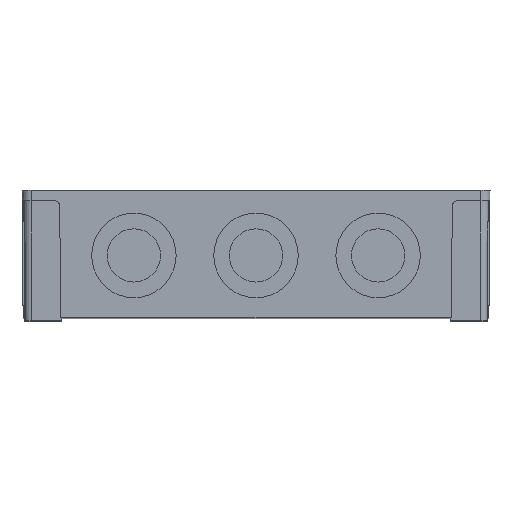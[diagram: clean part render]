
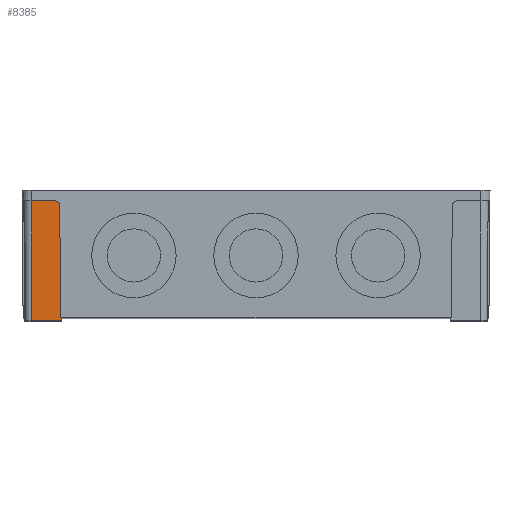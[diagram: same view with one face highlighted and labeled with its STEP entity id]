
A CAD part, top view. The second image highlights one B-rep face of the part: STEP entity #8385.
In plain terms, the highlighted planar face has unit normal (0, -0.009, 1).
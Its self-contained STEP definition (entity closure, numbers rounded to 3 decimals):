
#1549 = CARTESIAN_POINT ( 'NONE',  ( -75.157, -49., 126.457 ) ) ;
#1628 = DIRECTION ( 'NONE',  ( -1., 0., 0. ) ) ;
#1629 = VECTOR ( 'NONE', #1628, 1000. ) ;
#1630 = CARTESIAN_POINT ( 'NONE',  ( -86.55, -49., 126.457 ) ) ;
#1631 = LINE ( 'NONE', #1630, #1629 ) ;
#1692 = CARTESIAN_POINT ( 'NONE',  ( -74.957, -49., 126.457 ) ) ;
#2254 = DIRECTION ( 'NONE',  ( -1., 0., 0. ) ) ;
#2255 = VECTOR ( 'NONE', #2254, 1000. ) ;
#2256 = CARTESIAN_POINT ( 'NONE',  ( -86.55, -50., 126.449 ) ) ;
#2257 = LINE ( 'NONE', #2256, #2255 ) ;
#2283 = CARTESIAN_POINT ( 'NONE',  ( -86.55, -50., 126.449 ) ) ;
#2295 = CARTESIAN_POINT ( 'NONE',  ( -86.55, -4., 126.85 ) ) ;
#2344 = DIRECTION ( 'NONE',  ( 0.009, 1., 0.009 ) ) ;
#2345 = VECTOR ( 'NONE', #2344, 1000. ) ;
#2346 = CARTESIAN_POINT ( 'NONE',  ( -74.958, -49.101, 126.456 ) ) ;
#2347 = LINE ( 'NONE', #2346, #2345 ) ;
#2353 = CARTESIAN_POINT ( 'NONE',  ( -74.966, -50., 126.449 ) ) ;
#2358 = CARTESIAN_POINT ( 'NONE',  ( -76.369, -4., 126.85 ) ) ;
#2359 = CARTESIAN_POINT ( 'NONE',  ( -75.543, -4.819, 126.843 ) ) ;
#2360 = CARTESIAN_POINT ( 'NONE',  ( -75.533, -5.983, 126.833 ) ) ;
#2361 =( BOUNDED_CURVE ( )  B_SPLINE_CURVE ( 3, ( #2360, #2359, #2358, #2414 ),
 .UNSPECIFIED., .F., .T. ) 
 B_SPLINE_CURVE_WITH_KNOTS ( ( 4, 4 ),
 ( 1.58, 3.142 ),
 .UNSPECIFIED. ) 
 CURVE ( )  GEOMETRIC_REPRESENTATION_ITEM ( )  RATIONAL_B_SPLINE_CURVE ( ( 1., 0.807, 0.807, 1. ) ) 
 REPRESENTATION_ITEM ( '' )  );
#2362 = LINE ( 'NONE', #2413, #2412 ) ;
#2363 = CARTESIAN_POINT ( 'NONE',  ( -77.533, -4., 126.85 ) ) ;
#2364 = CARTESIAN_POINT ( 'NONE',  ( -75.533, -5.983, 126.833 ) ) ;
#2365 = DIRECTION ( 'NONE',  ( -0.009, 1., 0.009 ) ) ;
#2366 = VECTOR ( 'NONE', #2365, 1000. ) ;
#2367 = CARTESIAN_POINT ( 'NONE',  ( -75.551, -3.904, 126.851 ) ) ;
#2368 = LINE ( 'NONE', #2367, #2366 ) ;
#2369 = DIRECTION ( 'NONE',  ( 0., 1., 0.009 ) ) ;
#2370 = DIRECTION ( 'NONE',  ( 0., 0.009, -1. ) ) ;
#2371 = CARTESIAN_POINT ( 'NONE',  ( -75.55, -4., 126.85 ) ) ;
#2372 = AXIS2_PLACEMENT_3D ( 'NONE', #2371, #2370, #2369 ) ;
#2373 = PLANE ( 'NONE',  #2372 ) ;
#2374 = FACE_OUTER_BOUND ( 'NONE', #8386, .T. ) ;
#2375 = DIRECTION ( 'NONE',  ( 0., 1., 0.009 ) ) ;
#2376 = VECTOR ( 'NONE', #2375, 1000. ) ;
#2377 = CARTESIAN_POINT ( 'NONE',  ( -86.55, -4., 126.85 ) ) ;
#2378 = LINE ( 'NONE', #2377, #2376 ) ;
#2411 = DIRECTION ( 'NONE',  ( -1., 0., 0. ) ) ;
#2412 = VECTOR ( 'NONE', #2411, 1000. ) ;
#2413 = CARTESIAN_POINT ( 'NONE',  ( -75.55, -4., 126.85 ) ) ;
#2414 = CARTESIAN_POINT ( 'NONE',  ( -77.533, -4., 126.85 ) ) ;
#7894 = VERTEX_POINT ( 'NONE', #1549 ) ;
#7962 = EDGE_CURVE ( 'NONE', #7963, #7894, #1631, .T. ) ;
#7963 = VERTEX_POINT ( 'NONE', #1692 ) ;
#8314 = ORIENTED_EDGE ( 'NONE', *, *, #8315, .F. ) ;
#8315 = EDGE_CURVE ( 'NONE', #8370, #8329, #2257, .T. ) ;
#8322 = VERTEX_POINT ( 'NONE', #2295 ) ;
#8329 = VERTEX_POINT ( 'NONE', #2283 ) ;
#8370 = VERTEX_POINT ( 'NONE', #2353 ) ;
#8371 = ORIENTED_EDGE ( 'NONE', *, *, #8372, .T. ) ;
#8372 = EDGE_CURVE ( 'NONE', #8370, #7963, #2347, .T. ) ;
#8373 = ORIENTED_EDGE ( 'NONE', *, *, #7962, .T. ) ;
#8384 = EDGE_CURVE ( 'NONE', #8329, #8322, #2378, .T. ) ;
#8385 = ADVANCED_FACE ( 'NONE', ( #2374 ), #2373, .F. ) ;
#8386 = EDGE_LOOP ( 'NONE', ( #8387, #8390, #8393, #8395, #8314, #8371, #8373 ) ) ;
#8387 = ORIENTED_EDGE ( 'NONE', *, *, #8388, .T. ) ;
#8388 = EDGE_CURVE ( 'NONE', #7894, #8389, #2368, .T. ) ;
#8389 = VERTEX_POINT ( 'NONE', #2364 ) ;
#8390 = ORIENTED_EDGE ( 'NONE', *, *, #8391, .T. ) ;
#8391 = EDGE_CURVE ( 'NONE', #8389, #8392, #2361, .T. ) ;
#8392 = VERTEX_POINT ( 'NONE', #2363 ) ;
#8393 = ORIENTED_EDGE ( 'NONE', *, *, #8394, .T. ) ;
#8394 = EDGE_CURVE ( 'NONE', #8392, #8322, #2362, .T. ) ;
#8395 = ORIENTED_EDGE ( 'NONE', *, *, #8384, .F. ) ;
